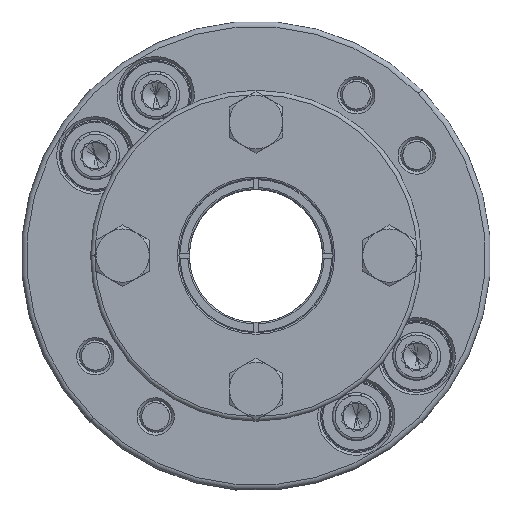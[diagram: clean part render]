
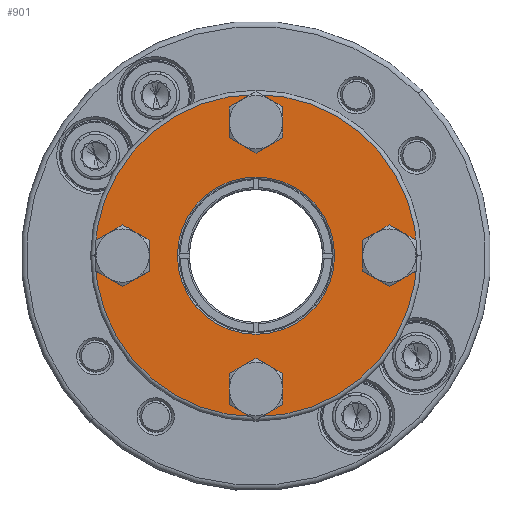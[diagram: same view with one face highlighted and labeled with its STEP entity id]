
A CAD part, top view. The second image highlights one B-rep face of the part: STEP entity #901.
In plain terms, the highlighted planar face has unit normal (0, 0, 1).
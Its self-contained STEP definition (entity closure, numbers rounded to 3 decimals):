
#551 = VERTEX_POINT ( 'NONE', #4100 ) ;
#556 = EDGE_CURVE ( 'NONE', #557, #551, #4095, .T. ) ;
#557 = VERTEX_POINT ( 'NONE', #4090 ) ;
#571 = VERTEX_POINT ( 'NONE', #4125 ) ;
#575 = EDGE_CURVE ( 'NONE', #577, #571, #4120, .T. ) ;
#577 = VERTEX_POINT ( 'NONE', #4174 ) ;
#674 = VERTEX_POINT ( 'NONE', #4358 ) ;
#679 = EDGE_CURVE ( 'NONE', #681, #674, #4346, .T. ) ;
#681 = VERTEX_POINT ( 'NONE', #4342 ) ;
#691 = VERTEX_POINT ( 'NONE', #4380 ) ;
#697 = EDGE_CURVE ( 'NONE', #698, #691, #4369, .T. ) ;
#698 = VERTEX_POINT ( 'NONE', #4427 ) ;
#734 = VERTEX_POINT ( 'NONE', #4493 ) ;
#791 = VERTEX_POINT ( 'NONE', #4579 ) ;
#794 = EDGE_CURVE ( 'NONE', #796, #791, #4574, .T. ) ;
#796 = VERTEX_POINT ( 'NONE', #4569 ) ;
#847 = EDGE_CURVE ( 'NONE', #848, #734, #4656, .T. ) ;
#848 = VERTEX_POINT ( 'NONE', #4719 ) ;
#892 = EDGE_LOOP ( 'NONE', ( #947, #949 ) ) ;
#901 = ADVANCED_FACE ( 'NONE', ( #4816, #4815, #4814, #4813, #4812, #4811 ), #4853, .T. ) ;
#902 = EDGE_LOOP ( 'NONE', ( #903, #904 ) ) ;
#903 = ORIENTED_EDGE ( 'NONE', *, *, #697, .T. ) ;
#904 = ORIENTED_EDGE ( 'NONE', *, *, #905, .T. ) ;
#905 = EDGE_CURVE ( 'NONE', #691, #698, #4848, .T. ) ;
#906 = EDGE_LOOP ( 'NONE', ( #960, #961 ) ) ;
#947 = ORIENTED_EDGE ( 'NONE', *, *, #948, .T. ) ;
#948 = EDGE_CURVE ( 'NONE', #791, #796, #4931, .T. ) ;
#949 = ORIENTED_EDGE ( 'NONE', *, *, #794, .T. ) ;
#950 = EDGE_LOOP ( 'NONE', ( #951, #952 ) ) ;
#951 = ORIENTED_EDGE ( 'NONE', *, *, #847, .T. ) ;
#952 = ORIENTED_EDGE ( 'NONE', *, *, #953, .T. ) ;
#953 = EDGE_CURVE ( 'NONE', #734, #848, #4926, .T. ) ;
#960 = ORIENTED_EDGE ( 'NONE', *, *, #679, .T. ) ;
#961 = ORIENTED_EDGE ( 'NONE', *, *, #962, .T. ) ;
#962 = EDGE_CURVE ( 'NONE', #674, #681, #4959, .T. ) ;
#963 = EDGE_LOOP ( 'NONE', ( #964, #965 ) ) ;
#964 = ORIENTED_EDGE ( 'NONE', *, *, #575, .T. ) ;
#965 = ORIENTED_EDGE ( 'NONE', *, *, #966, .T. ) ;
#966 = EDGE_CURVE ( 'NONE', #571, #577, #4955, .T. ) ;
#967 = EDGE_LOOP ( 'NONE', ( #968, #969 ) ) ;
#968 = ORIENTED_EDGE ( 'NONE', *, *, #556, .T. ) ;
#969 = ORIENTED_EDGE ( 'NONE', *, *, #970, .T. ) ;
#970 = EDGE_CURVE ( 'NONE', #551, #557, #5007, .T. ) ;
#4090 = CARTESIAN_POINT ( 'NONE',  ( -20.5, 0., 14.5 ) ) ;
#4091 = DIRECTION ( 'NONE',  ( 1., 0., 0. ) ) ;
#4092 = DIRECTION ( 'NONE',  ( 0., 0., -1. ) ) ;
#4093 = CARTESIAN_POINT ( 'NONE',  ( -25., 0., 14.5 ) ) ;
#4094 = AXIS2_PLACEMENT_3D ( 'NONE', #4093, #4092, #4091 ) ;
#4095 = CIRCLE ( 'NONE', #4094, 4.5 ) ;
#4100 = CARTESIAN_POINT ( 'NONE',  ( -29.5, 0., 14.5 ) ) ;
#4116 = DIRECTION ( 'NONE',  ( 1., 0., 0. ) ) ;
#4117 = DIRECTION ( 'NONE',  ( 0., 0., -1. ) ) ;
#4118 = CARTESIAN_POINT ( 'NONE',  ( 25., 0., 14.5 ) ) ;
#4119 = AXIS2_PLACEMENT_3D ( 'NONE', #4118, #4117, #4116 ) ;
#4120 = CIRCLE ( 'NONE', #4119, 4.5 ) ;
#4125 = CARTESIAN_POINT ( 'NONE',  ( 20.5, 0., 14.5 ) ) ;
#4174 = CARTESIAN_POINT ( 'NONE',  ( 29.5, 0., 14.5 ) ) ;
#4342 = CARTESIAN_POINT ( 'NONE',  ( 3.75, 25., 14.5 ) ) ;
#4343 = DIRECTION ( 'NONE',  ( 1., 0., 0. ) ) ;
#4344 = DIRECTION ( 'NONE',  ( 0., 0., -1. ) ) ;
#4345 = AXIS2_PLACEMENT_3D ( 'NONE', #4351, #4344, #4343 ) ;
#4346 = CIRCLE ( 'NONE', #4345, 3.75 ) ;
#4351 = CARTESIAN_POINT ( 'NONE',  ( 0., 25., 14.5 ) ) ;
#4358 = CARTESIAN_POINT ( 'NONE',  ( -3.75, 25., 14.5 ) ) ;
#4369 = CIRCLE ( 'NONE', #4431, 3.75 ) ;
#4380 = CARTESIAN_POINT ( 'NONE',  ( -3.75, -25., 14.5 ) ) ;
#4427 = CARTESIAN_POINT ( 'NONE',  ( 3.75, -25., 14.5 ) ) ;
#4428 = DIRECTION ( 'NONE',  ( 1., 0., 0. ) ) ;
#4429 = DIRECTION ( 'NONE',  ( 0., 0., -1. ) ) ;
#4430 = CARTESIAN_POINT ( 'NONE',  ( 0., -25., 14.5 ) ) ;
#4431 = AXIS2_PLACEMENT_3D ( 'NONE', #4430, #4429, #4428 ) ;
#4493 = CARTESIAN_POINT ( 'NONE',  ( -30.2, 0., 14.5 ) ) ;
#4569 = CARTESIAN_POINT ( 'NONE',  ( -14.734, 0., 14.5 ) ) ;
#4570 = DIRECTION ( 'NONE',  ( 1., 0., 0. ) ) ;
#4571 = DIRECTION ( 'NONE',  ( 0., 0., -1. ) ) ;
#4572 = CARTESIAN_POINT ( 'NONE',  ( 0., 0., 14.5 ) ) ;
#4573 = AXIS2_PLACEMENT_3D ( 'NONE', #4572, #4571, #4570 ) ;
#4574 = CIRCLE ( 'NONE', #4573, 14.734 ) ;
#4579 = CARTESIAN_POINT ( 'NONE',  ( 14.734, 0., 14.5 ) ) ;
#4653 = DIRECTION ( 'NONE',  ( 1., 0., 0. ) ) ;
#4654 = DIRECTION ( 'NONE',  ( 0., 0., 1. ) ) ;
#4655 = AXIS2_PLACEMENT_3D ( 'NONE', #4662, #4654, #4653 ) ;
#4656 = CIRCLE ( 'NONE', #4655, 30.2 ) ;
#4662 = CARTESIAN_POINT ( 'NONE',  ( 0., 0., 14.5 ) ) ;
#4719 = CARTESIAN_POINT ( 'NONE',  ( 30.2, 0., 14.5 ) ) ;
#4811 = FACE_OUTER_BOUND ( 'NONE', #950, .T. ) ;
#4812 = FACE_BOUND ( 'NONE', #892, .T. ) ;
#4813 = FACE_BOUND ( 'NONE', #967, .T. ) ;
#4814 = FACE_BOUND ( 'NONE', #963, .T. ) ;
#4815 = FACE_BOUND ( 'NONE', #906, .T. ) ;
#4816 = FACE_BOUND ( 'NONE', #902, .T. ) ;
#4844 = DIRECTION ( 'NONE',  ( 1., 0., 0. ) ) ;
#4845 = DIRECTION ( 'NONE',  ( 0., 0., -1. ) ) ;
#4846 = CARTESIAN_POINT ( 'NONE',  ( 0., -25., 14.5 ) ) ;
#4847 = AXIS2_PLACEMENT_3D ( 'NONE', #4846, #4845, #4844 ) ;
#4848 = CIRCLE ( 'NONE', #4847, 3.75 ) ;
#4849 = DIRECTION ( 'NONE',  ( 1., 0., 0. ) ) ;
#4850 = DIRECTION ( 'NONE',  ( 0., 0., 1. ) ) ;
#4851 = CARTESIAN_POINT ( 'NONE',  ( 0., 14.375, 14.5 ) ) ;
#4852 = AXIS2_PLACEMENT_3D ( 'NONE', #4851, #4850, #4849 ) ;
#4853 = PLANE ( 'NONE',  #4852 ) ;
#4922 = DIRECTION ( 'NONE',  ( 1., 0., 0. ) ) ;
#4923 = DIRECTION ( 'NONE',  ( 0., 0., 1. ) ) ;
#4924 = CARTESIAN_POINT ( 'NONE',  ( 0., 0., 14.5 ) ) ;
#4925 = AXIS2_PLACEMENT_3D ( 'NONE', #4924, #4923, #4922 ) ;
#4926 = CIRCLE ( 'NONE', #4925, 30.2 ) ;
#4928 = DIRECTION ( 'NONE',  ( 1., 0., 0. ) ) ;
#4929 = DIRECTION ( 'NONE',  ( 0., 0., -1. ) ) ;
#4930 = AXIS2_PLACEMENT_3D ( 'NONE', #4937, #4929, #4928 ) ;
#4931 = CIRCLE ( 'NONE', #4930, 14.734 ) ;
#4937 = CARTESIAN_POINT ( 'NONE',  ( 0., 0., 14.5 ) ) ;
#4955 = CIRCLE ( 'NONE', #5011, 4.5 ) ;
#4956 = DIRECTION ( 'NONE',  ( 1., 0., 0. ) ) ;
#4957 = DIRECTION ( 'NONE',  ( 0., 0., -1. ) ) ;
#4958 = AXIS2_PLACEMENT_3D ( 'NONE', #4964, #4957, #4956 ) ;
#4959 = CIRCLE ( 'NONE', #4958, 3.75 ) ;
#4964 = CARTESIAN_POINT ( 'NONE',  ( 0., 25., 14.5 ) ) ;
#5003 = DIRECTION ( 'NONE',  ( 1., 0., 0. ) ) ;
#5004 = DIRECTION ( 'NONE',  ( 0., 0., -1. ) ) ;
#5005 = CARTESIAN_POINT ( 'NONE',  ( -25., 0., 14.5 ) ) ;
#5006 = AXIS2_PLACEMENT_3D ( 'NONE', #5005, #5004, #5003 ) ;
#5007 = CIRCLE ( 'NONE', #5006, 4.5 ) ;
#5008 = DIRECTION ( 'NONE',  ( 1., 0., 0. ) ) ;
#5009 = DIRECTION ( 'NONE',  ( 0., 0., -1. ) ) ;
#5010 = CARTESIAN_POINT ( 'NONE',  ( 25., 0., 14.5 ) ) ;
#5011 = AXIS2_PLACEMENT_3D ( 'NONE', #5010, #5009, #5008 ) ;
